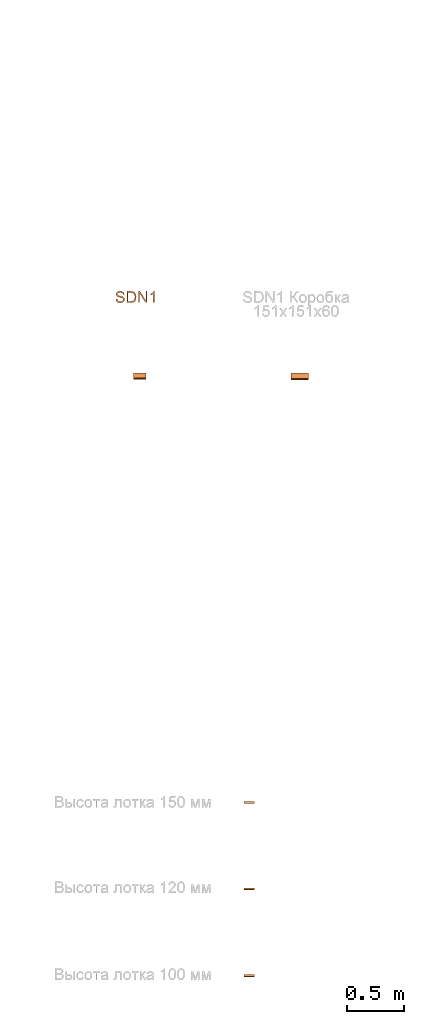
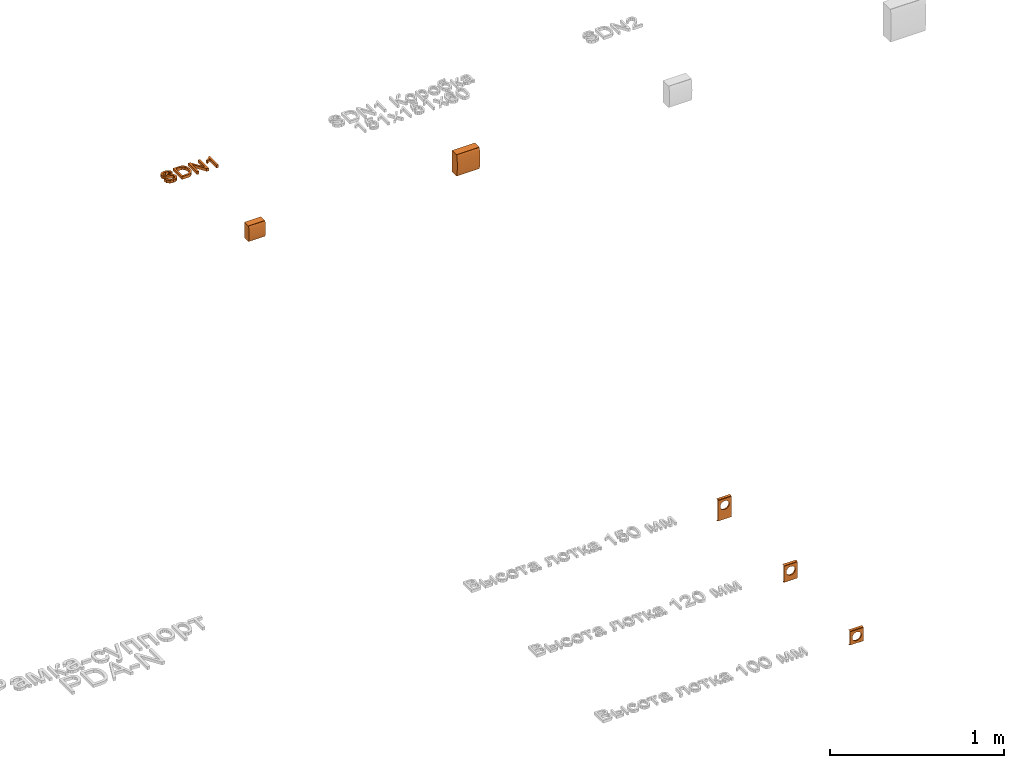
# One storey, part 33 of 71: 6 proxies, 3 openings.
"""IFC2X3 building model written with IfcOpenShell, lengths in millimetres."""

from ifc_helpers import new_model, entity, si_unit, converted_unit, derived_unit, direction, frame, frame_2d, origin, place, context, subcontext, project, spatial, polyline, circle, outline, extrude, source, transform, mapped, material, type_object, type_shapes, element, save


model = new_model("IFC2X3")

# Units and contexts
model_context = context("Model", 3, precision=0.01, world=origin(), true_north=direction((6.12303176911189e-17, 1.0)))
body_context = subcontext(model_context, "Body", "Model", "MODEL_VIEW")
ifc_project = project(units=[si_unit("LENGTHUNIT", "METRE", prefix="MILLI"), si_unit("AREAUNIT", "SQUARE_METRE"), si_unit("VOLUMEUNIT", "CUBIC_METRE"), converted_unit("PLANEANGLEUNIT", "DEGREE", entity("IfcRatioMeasure", 0.0174532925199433), si_unit("PLANEANGLEUNIT", "RADIAN"), dimensions=[0, 0, 0, 0, 0, 0, 0]), si_unit("MASSUNIT", "GRAM", prefix="KILO"), derived_unit("MASSDENSITYUNIT", [(si_unit("MASSUNIT", "GRAM", prefix="KILO"), 1), (si_unit("LENGTHUNIT", "METRE"), -3)]), si_unit("TIMEUNIT", "SECOND"), si_unit("FREQUENCYUNIT", "HERTZ"), si_unit("THERMODYNAMICTEMPERATUREUNIT", "DEGREE_CELSIUS"), derived_unit("THERMALTRANSMITTANCEUNIT", [(si_unit("MASSUNIT", "GRAM", prefix="KILO"), 1), (si_unit("THERMODYNAMICTEMPERATUREUNIT", "KELVIN"), -1), (si_unit("TIMEUNIT", "SECOND"), -3)]), derived_unit("VOLUMETRICFLOWRATEUNIT", [(si_unit("LENGTHUNIT", "METRE"), 3), (si_unit("TIMEUNIT", "SECOND"), -1)]), si_unit("ELECTRICCURRENTUNIT", "AMPERE"), si_unit("ELECTRICVOLTAGEUNIT", "VOLT"), si_unit("POWERUNIT", "WATT"), si_unit("FORCEUNIT", "NEWTON", prefix="KILO"), si_unit("ILLUMINANCEUNIT", "LUX"), si_unit("LUMINOUSFLUXUNIT", "LUMEN"), si_unit("LUMINOUSINTENSITYUNIT", "CANDELA"), derived_unit("USERDEFINED", [(si_unit("MASSUNIT", "GRAM", prefix="KILO"), -1), (si_unit("LENGTHUNIT", "METRE"), -2), (si_unit("TIMEUNIT", "SECOND"), 3), (si_unit("LUMINOUSFLUXUNIT", "LUMEN"), 1)]), derived_unit("LINEARVELOCITYUNIT", [(si_unit("LENGTHUNIT", "METRE"), 1), (si_unit("TIMEUNIT", "SECOND"), -1)]), si_unit("PRESSUREUNIT", "PASCAL"), derived_unit("USERDEFINED", [(si_unit("LENGTHUNIT", "METRE"), -2), (si_unit("MASSUNIT", "GRAM", prefix="KILO"), 1), (si_unit("TIMEUNIT", "SECOND"), -2)])], contexts=[model_context])

# Site, building, storey
site_placement = place(None, origin())
site = spatial("IfcSite", under=ifc_project, at=site_placement, Name="Default", CompositionType="ELEMENT")
building_placement = place(site_placement, origin())
building = spatial("IfcBuilding", under=site, at=building_placement, Name="Наименование здания", CompositionType="ELEMENT")
storey_placement = place(building_placement, origin())
storey = spatial("IfcBuildingStorey", under=building, at=storey_placement, Name="Этаж 01", CompositionType="ELEMENT", Elevation=0.0)

# Proxy, opening
ifc_material = material(Name="DKC_Пластик_Белый")
building_element_proxy_type_1 = type_object("IfcBuildingElementProxyType", Name="Рамка суппорт PDA-N_DKC", PredefinedType="NOTDEFINED", material=ifc_material)
shared_shape_1 = source(origin(), body_context, "Body", "SweptSolid", [
    extrude(outline(polyline([(-9.46739966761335, -75.8500000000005), (-0.467399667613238, -75.8500000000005), (1.28841323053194, -75.7539264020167), (4.53273242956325, -75.0073480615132), (7.01582684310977, -73.6278511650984), (8.35966785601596, -71.8254516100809), (8.5326003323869, -70.8500000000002), (8.53260033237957, 70.850000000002), (8.35966785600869, 71.825451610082), (7.0158268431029, 73.627851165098), (4.53273242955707, 75.0073480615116), (1.28841323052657, 75.7539264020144), (-0.46739966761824, 75.8499999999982), (-9.46739966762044, 75.8499999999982), (-9.46739966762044, 75.0), (-4.44752915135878, 75.0), (-3.30063243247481, 74.491791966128), (-1.52451496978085, 73.201160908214), (-0.586965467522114, 71.6623066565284), (-0.467399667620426, 70.8500000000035), (-0.467399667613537, -70.8500000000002), (-0.586965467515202, -71.6623066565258), (-1.52451496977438, -73.2011609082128), (-3.30063243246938, -74.4917919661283), (-4.44752915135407, -75.0), (-9.46739966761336, -75.0), (-9.46739966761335, -75.8500000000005)])), frame((-44.0, -0.467399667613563, -25.0), z_axis=(1.0, 0.0, 0.0), x_axis=(0.0, -1.0, 0.0)), (0.0, 0.0, 1.0), 88.0),
])
type_shapes(building_element_proxy_type_1, [shared_shape_1])
proxy_1_placement = place(storey_placement, frame((5839.62541971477, -22407.928693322, 0.0)))
proxy_1 = element("IfcBuildingElementProxy", 1, at=proxy_1_placement, inside=storey, type_object=building_element_proxy_type_1, material=ifc_material, Name="КНС_РамкаСуппортPDA-N_ILC_DKC:Рамка суппорт PDA-N_DKC", ObjectType="Рамка суппорт PDA-N_DKC", context=body_context, shape_type="MappedRepresentation", body=[
    mapped(shared_shape_1, transform((0.0, 0.0, 0.0), scale=1.0)),
])
opening_1_placement = place(storey_placement, frame((5839.62541971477, -22407.928693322, 0.0)))
element("IfcOpeningElement", 2, at=opening_1_placement, cuts=proxy_1, Name="КНС_РамкаСуппортPDA-N_ILC_DKC:Рамка суппорт PDA-N_DKC:1", ObjectType="Opening", context=body_context, shape_type="SweptSolid", body=[
    extrude(circle(Radius=30.0, at=frame_2d((1.41033157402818e-17, -1.48386409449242e-13), x_axis=(1.0, 0.0))), frame((0.0, -9.0, 0.0), z_axis=(0.0, 1.0, 0.0), x_axis=(1.0, 0.0, 0.0)), (0.0, 0.0, 1.0), 9.00000000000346),
])

# Proxies
building_element_proxy_type_2 = type_object("IfcBuildingElementProxyType", Name="SDN1", PredefinedType="NOTDEFINED", material=ifc_material)
shared_shape_2 = source(origin(), body_context, "Body", "SweptSolid", [
    extrude(outline(polyline([(-18.9092812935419, -51.6640083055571), (-17.3799838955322, -51.6640083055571), (-13.2240460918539, -48.5594387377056), (-7.89759425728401, -41.5598866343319), (-1.83214584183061, -31.2324140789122), (4.48091259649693, -18.4136914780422), (10.5301346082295, -4.14221550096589), (15.8254482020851, 10.4258237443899), (19.9378585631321, 24.1102103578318), (22.5342026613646, 35.8023167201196), (23.4041401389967, 44.5549179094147), (22.477193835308, 49.658930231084), (21.3577568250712, 50.7008569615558), (-20.5187789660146, 67.1737361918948), (-60.7858170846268, -35.1911290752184), (-18.9092812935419, -51.6640083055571)])), frame((-55.0, -43.684449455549, 0.0), z_axis=(1.0, 0.0, 0.0), x_axis=(0.0, -0.930589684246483, -0.366063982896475)), (0.0, 0.0, 1.0), 110.0),
])
type_shapes(building_element_proxy_type_2, [shared_shape_2])
proxy_2_placement = place(storey_placement, frame((4881.62924654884, -18646.77075177, 0.0)))
element("IfcBuildingElementProxy", 3, at=proxy_2_placement, inside=storey, type_object=building_element_proxy_type_2, material=ifc_material, Name="КНС_КоробкаРаспределительнаяSDN_ILC_DKC:SDN1", ObjectType="SDN1", context=body_context, shape_type="MappedRepresentation", body=[
    mapped(shared_shape_2, transform((0.0, 0.0, 0.0), scale=1.0)),
])
building_element_proxy_type_3 = type_object("IfcBuildingElementProxyType", Name="SDN1 Коробка 151х151х60", PredefinedType="NOTDEFINED", material=ifc_material)
shared_shape_3 = source(origin(), body_context, "Body", "SweptSolid", [
    extrude(outline(polyline([(-34.1288834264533, -67.3750584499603), (-32.5115045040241, -67.3750584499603), (-27.231827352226, -63.3454223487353), (-19.6046869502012, -54.2602183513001), (-10.2479888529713, -40.8554756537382), (0.0802429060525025, -24.2171667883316), (10.5432764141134, -5.69322858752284), (20.2934589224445, 13.2156396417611), (28.5408886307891, 30.977553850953), (34.61740783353, 46.1535493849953), (38.0307330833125, 57.5141573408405), (38.504337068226, 64.1390088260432), (37.6172301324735, 65.4913977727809), (-6.37828517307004, 89.2483890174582), (-78.1243987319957, -43.6180672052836), (-34.1288834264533, -67.3750584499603)])), frame((-75.5, -48.0177827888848, 0.0), z_axis=(1.0, 0.0, 0.0), x_axis=(0.0, -0.879910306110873, -0.475139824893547)), (0.0, 0.0, 1.0), 151.0),
])
type_shapes(building_element_proxy_type_3, [shared_shape_3])
proxy_3_placement = place(storey_placement, frame((6281.62924654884, -18646.77075177, 0.0)))
element("IfcBuildingElementProxy", 4, at=proxy_3_placement, inside=storey, type_object=building_element_proxy_type_3, material=ifc_material, Name="КНС_КоробкаРаспределительнаяSDN_ILC_DKC:SDN1 Коробка 151х151х60", ObjectType="SDN1 Коробка 151х151х60", context=body_context, shape_type="MappedRepresentation", body=[
    mapped(shared_shape_3, transform((0.0, 0.0, 0.0), scale=1.0)),
])

# Proxy, opening
building_element_proxy_type_4 = type_object("IfcBuildingElementProxyType", Name="Рамка суппорт PDA-N_DKC", PredefinedType="NOTDEFINED", material=ifc_material)
shared_shape_4 = source(origin(), body_context, "Body", "SweptSolid", [
    extrude(outline(polyline([(-9.46739966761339, -60.8500000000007), (-0.46739966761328, -60.8500000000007), (1.2884132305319, -60.7539264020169), (4.5327324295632, -60.0073480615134), (7.01582684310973, -58.6278511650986), (8.35966785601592, -56.8254516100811), (8.53260033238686, -55.8500000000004), (8.53260033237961, 55.8500000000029), (8.35966785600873, 56.8254516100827), (7.01582684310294, 58.6278511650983), (4.53273242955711, 60.0073480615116), (1.28841323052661, 60.7539264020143), (-0.467399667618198, 60.849999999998), (-9.4673996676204, 60.849999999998), (-9.4673996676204, 60.0), (-4.44752915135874, 60.0), (-3.30063243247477, 59.491791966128), (-1.52451496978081, 58.2011609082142), (-0.586965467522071, 56.6623066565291), (-0.467399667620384, 55.8500000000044), (-0.467399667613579, -55.8500000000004), (-0.586965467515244, -56.662306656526), (-1.52451496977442, -58.201160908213), (-3.30063243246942, -59.4917919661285), (-4.44752915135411, -60.0), (-9.4673996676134, -60.0), (-9.46739966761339, -60.8500000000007)])), frame((-44.0, -0.467399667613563, -10.0), z_axis=(1.0, 0.0, 0.0), x_axis=(0.0, -1.0, 0.0)), (0.0, 0.0, 1.0), 88.0),
])
type_shapes(building_element_proxy_type_4, [shared_shape_4])
proxy_4_placement = place(storey_placement, frame((5839.62541971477, -23166.9460114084, 0.0)))
proxy_4 = element("IfcBuildingElementProxy", 5, at=proxy_4_placement, inside=storey, type_object=building_element_proxy_type_4, material=ifc_material, Name="КНС_РамкаСуппортPDA-N_ILC_DKC:Рамка суппорт PDA-N_DKC", ObjectType="Рамка суппорт PDA-N_DKC", context=body_context, shape_type="MappedRepresentation", body=[
    mapped(shared_shape_4, transform((0.0, 0.0, 0.0), scale=1.0)),
])
opening_2_placement = place(storey_placement, frame((5839.62541971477, -23166.9460114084, 0.0)))
element("IfcOpeningElement", 6, at=opening_2_placement, cuts=proxy_4, Name="КНС_РамкаСуппортPDA-N_ILC_DKC:Рамка суппорт PDA-N_DKC:1", ObjectType="Opening", context=body_context, shape_type="SweptSolid", body=[
    extrude(circle(Radius=30.0, at=frame_2d((1.41033157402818e-17, -1.3506373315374e-13), x_axis=(1.0, 0.0))), frame((0.0, 0.0, 0.0), z_axis=(0.0, -1.0, 0.0), x_axis=(1.0, 0.0, 0.0)), (0.0, 0.0, 1.0), 9.00000000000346),
])

building_element_proxy_type_5 = type_object("IfcBuildingElementProxyType", Name="Рамка суппорт PDA-N_DKC", PredefinedType="NOTDEFINED", material=ifc_material)
shared_shape_5 = source(origin(), body_context, "Body", "SweptSolid", [
    extrude(outline(polyline([(-9.46739966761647, -50.8500000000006), (-0.467399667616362, -50.8500000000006), (1.28841323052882, -50.7539264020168), (4.53273242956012, -50.0073480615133), (7.01582684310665, -48.6278511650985), (8.35966785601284, -46.825451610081), (8.53260033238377, -45.8500000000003), (8.53260033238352, 45.8500000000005), (8.35966785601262, 46.8254516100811), (7.01582684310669, 48.6278511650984), (4.53273242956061, 50.007348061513), (1.28841323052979, 50.7539264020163), (-0.467399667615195, 50.8500000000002), (-9.46739966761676, 50.8499999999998), (-9.46739966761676, 50.0), (-4.44752915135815, 50.0), (-3.30063243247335, 49.4917919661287), (-1.52451496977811, 48.2011609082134), (-0.586965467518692, 46.6623066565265), (-0.467399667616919, 45.8500000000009), (-0.46739966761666, -45.8500000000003), (-0.586965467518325, -46.6623066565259), (-1.5245149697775, -48.2011609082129), (-3.3006324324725, -49.4917919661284), (-4.44752915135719, -50.0), (-9.46739966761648, -50.0), (-9.46739966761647, -50.8500000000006)])), frame((-44.0, -0.467399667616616, 0.0), z_axis=(1.0, 0.0, 0.0), x_axis=(0.0, -1.0, 0.0)), (0.0, 0.0, 1.0), 88.0),
])
type_shapes(building_element_proxy_type_5, [shared_shape_5])
proxy_5_placement = place(storey_placement, frame((5839.62541971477, -23925.9633294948, 0.0)))
proxy_5 = element("IfcBuildingElementProxy", 7, at=proxy_5_placement, inside=storey, type_object=building_element_proxy_type_5, material=ifc_material, Name="КНС_РамкаСуппортPDA-N_ILC_DKC:Рамка суппорт PDA-N_DKC", ObjectType="Рамка суппорт PDA-N_DKC", context=body_context, shape_type="MappedRepresentation", body=[
    mapped(shared_shape_5, transform((0.0, 0.0, 0.0), scale=1.0)),
])
opening_3_placement = place(storey_placement, frame((5839.62541971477, -23925.9633294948, 0.0)))
element("IfcOpeningElement", 8, at=opening_3_placement, cuts=proxy_5, Name="КНС_РамкаСуппортPDA-N_ILC_DKC:Рамка суппорт PDA-N_DKC:1", ObjectType="Opening", context=body_context, shape_type="SweptSolid", body=[
    extrude(circle(Radius=30.0, at=frame_2d((1.41033157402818e-17, -1.3506373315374e-13), x_axis=(1.0, 0.0))), frame((0.0, 0.0, 0.0), z_axis=(0.0, -1.0, 0.0), x_axis=(1.0, 0.0, 0.0)), (0.0, 0.0, 1.0), 9.00000000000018),
])

# Proxy
proxy_6_placement = place(storey_placement, origin())
element("IfcBuildingElementProxy", 9, at=proxy_6_placement, inside=storey, Name="Текст модели:100 мм Arial", ObjectType="Текст модели:100 мм Arial", context=body_context, shape_type="SweptSolid", body=[
    extrude(outline(polyline([(3.84937147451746, -43.6856759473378), (23.7794632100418, -43.6856759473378), (39.8633473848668, -33.4874410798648), (50.0223326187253, -13.0514651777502), (51.4237754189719, 6.29142125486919), (44.3957821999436, 21.7342280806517), (31.1640380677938, 30.1503243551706), (16.435164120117, 30.2478071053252), (3.33579130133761, 21.3214655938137), (-8.77259240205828, 1.6530380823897), (-21.0985165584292, -16.1698870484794), (-30.5640915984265, -17.6490595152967), (-39.0604828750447, -9.38611377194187), (-38.3252577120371, 9.08738044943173), (-29.2485875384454, 25.1525376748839), (-22.7372528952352, 28.3076438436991), (-14.9001528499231, 28.4884999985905), (-11.485178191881, 40.5722564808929), (-27.9674589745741, 40.0566240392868), (-41.6940563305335, 30.1734123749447), (-50.5424116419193, 12.0303333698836), (-52.3124931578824, -6.81333876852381), (-46.1179774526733, -21.7784801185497), (-33.6250499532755, -29.832864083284), (-20.6549700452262, -29.8410731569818), (-8.75822652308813, -22.1040211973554), (2.55362049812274, -4.84829175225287), (12.1400228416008, 11.4423584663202), (19.9483911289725, 18.1047913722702), (28.0558775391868, 17.9798595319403), (35.4058203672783, 13.0100350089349), (39.1668587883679, 3.14170229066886), (37.8051786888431, -10.1085122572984), (30.7951428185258, -23.7758503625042), (20.4604321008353, -31.1260497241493), (7.26434613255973, -31.6019194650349), (3.84937147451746, -43.6856759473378)])), frame((4710.84208973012, -17980.8706548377, 0.0), z_axis=(0.0, 0.0, 1.0), x_axis=(0.271957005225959, -0.962309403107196, 0.0)), (0.0, 0.0, 1.0), 20.0),
    extrude(outline(polyline([(-52.0379301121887, -47.6672876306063), (-15.7157144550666, -47.6672876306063), (0.434305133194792, -45.950504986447), (12.4395209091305, -40.9105216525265), (21.6120453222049, -31.799310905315), (28.4791758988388, -17.1698702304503), (31.1524517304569, 3.10042770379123), (27.2038516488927, 26.9882319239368), (15.3090004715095, 44.1560583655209), (0.544669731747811, 51.34202000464), (-17.3834461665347, 52.789022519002), (-52.0379301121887, 52.789022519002), (-52.0379301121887, -47.6672876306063)]), holes=[polyline([(-39.4808913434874, -35.1102488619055), (-39.4808913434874, 40.2319837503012), (-17.6041753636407, 40.2319837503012), (0.201313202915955, 38.2208955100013), (13.2365985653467, 27.086333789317), (17.2557093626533, 16.9818416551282), (18.5954129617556, 3.29663143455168), (15.8608234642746, -15.6983422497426), (8.22114069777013, -28.1695418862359), (-1.09853651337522, -33.295364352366), (-17.2608188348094, -35.1102488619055), (-39.4808913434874, -35.1102488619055)])]), frame((4819.20479709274, -17983.3201357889, 0.0)), (0.0, 0.0, 1.0), 20.0),
    extrude(outline(polyline([(-39.2407461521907, -50.2306076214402), (-26.6837073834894, -50.2306076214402), (-26.6837073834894, 29.3790561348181), (25.8007905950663, -50.2306076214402), (39.2407461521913, -50.2306076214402), (39.2407461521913, 50.2257025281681), (26.6837073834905, 50.2257025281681), (26.6837073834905, -29.3594357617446), (-25.8007905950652, 50.2257025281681), (-39.2407461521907, 50.2257025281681), (-39.2407461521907, -50.2306076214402)])), frame((4906.86392328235, -17980.7568157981, 0.0)), (0.0, 0.0, 1.0), 20.0),
    extrude(outline(polyline([(-63.8793021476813, -16.9184842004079), (36.577008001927, -16.9184842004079), (36.577008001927, -8.82508030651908), (23.2106288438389, 2.34626961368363), (11.4629304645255, 20.7526321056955), (-0.407395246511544, 20.7526321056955), (5.93243780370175, 7.53340574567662), (14.4059864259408, -4.36144543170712), (-63.8793021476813, -4.36144543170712), (-63.8793021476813, -16.9184842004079)])), frame((4993.54100892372, -17967.1081212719, 0.0), z_axis=(0.0, 0.0, 1.0), x_axis=(0.0, 1.0, 0.0)), (0.0, 0.0, 1.0), 20.0),
])

save(model, "model.ifc")
